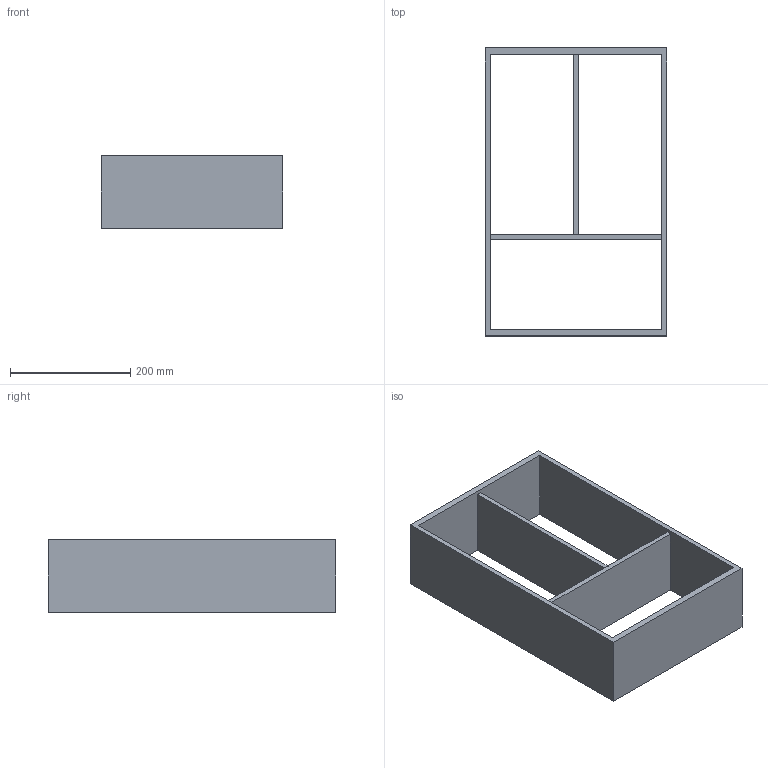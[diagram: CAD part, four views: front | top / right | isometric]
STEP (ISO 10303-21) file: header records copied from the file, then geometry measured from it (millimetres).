
FILE_DESCRIPTION (( 'STEP AP214' ), '1' );
FILE_NAME ('Vario Multi H120 NL500_B400_19 mm_Alu-Alu.step', '2010-10-08T09:48:01', ( 'grass' ), ( '' ), 'SwSTEP 2.0', 'SolidWorks 2010', '' );
FILE_SCHEMA (( 'AUTOMOTIVE_DESIGN' ));
Length unit declared in the file: millimetre
Products named in the file (1): Vario Multi H120 NL500_B400_19 mm_Alu-Alu
Bounding box: 302 x 479 x 120 mm (x, y, z)
Volume: 2208850.8 mm3; surface area: 532930.3 mm2
Topology: 1 solids, 1 shells, 18 faces, 48 edges, 32 vertices
Faces by surface type: plane 18
Entity records: 598 total; most frequent: CARTESIAN_POINT 99, ORIENTED_EDGE 96, DIRECTION 86, VECTOR 48, LINE 48, EDGE_CURVE 48, VERTEX_POINT 32, EDGE_LOOP 24
